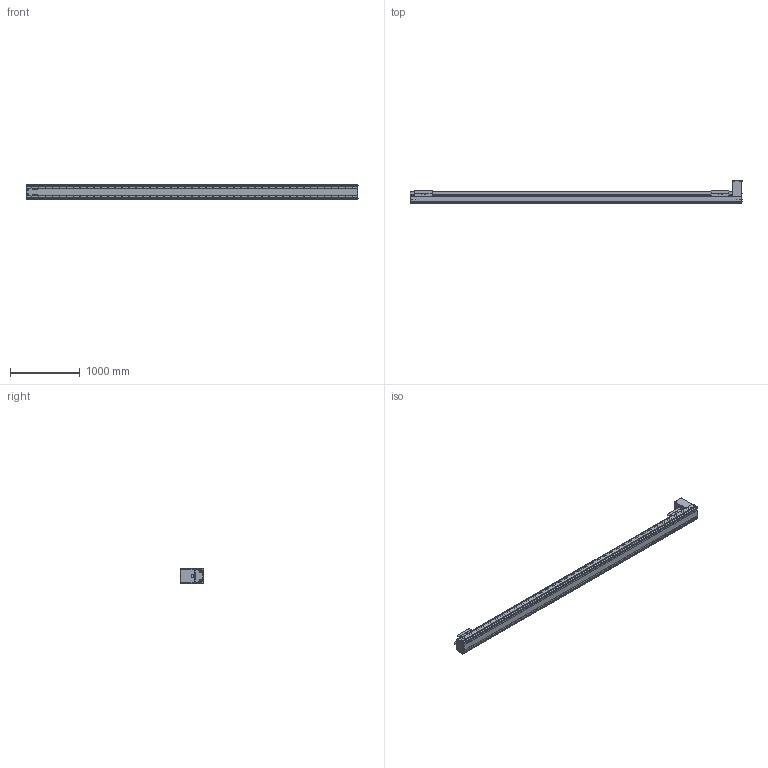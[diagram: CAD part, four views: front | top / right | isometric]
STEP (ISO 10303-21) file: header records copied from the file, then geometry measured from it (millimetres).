
FILE_DESCRIPTION((''),'2;1');
FILE_NAME('BE60J-BT-M19N-X25_IGS_PRT','2017-06-18T',(' '),(''),'PRO/ENGINEER BY PARAMETRIC TECHNOLOGY CORPORATION, 2015030','PRO/ENGINEER BY PARAMETRIC TECHNOLOGY CORPORATION, 2015030','');
FILE_SCHEMA(('CONFIG_CONTROL_DESIGN'));
Products named in the file (1): BE60J-BT-M19N-X25_IGS_PRT
Bounding box: 4754.4 x 327.5 x 214 mm (x, y, z)
Volume: 2337929 mm3; surface area: 11427745.5 mm2
Topology: 13 solids, 376 shells, 3360 faces, 9850 edges, 6558 vertices
Faces by surface type: cylinder 1914, plane 1074, cone 276, torus 48, sphere 48
Entity records: 115718 total; most frequent: CARTESIAN_POINT 27402, DIRECTION 18268, ORIENTED_EDGE 17368, EDGE_CURVE 9532, AXIS2_PLACEMENT_3D 7030, VERTEX_POINT 6528, EDGE_LOOP 4342, VECTOR 4208
